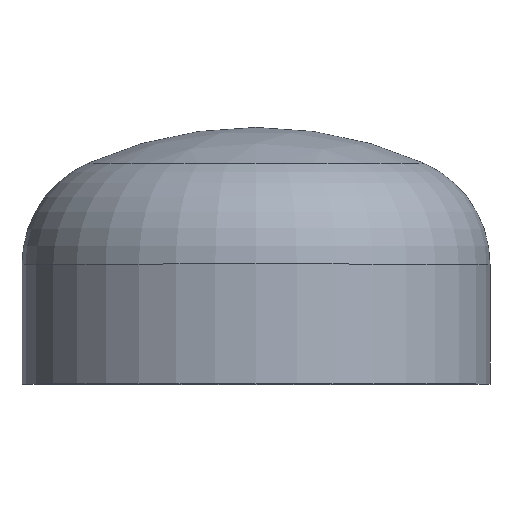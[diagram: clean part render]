
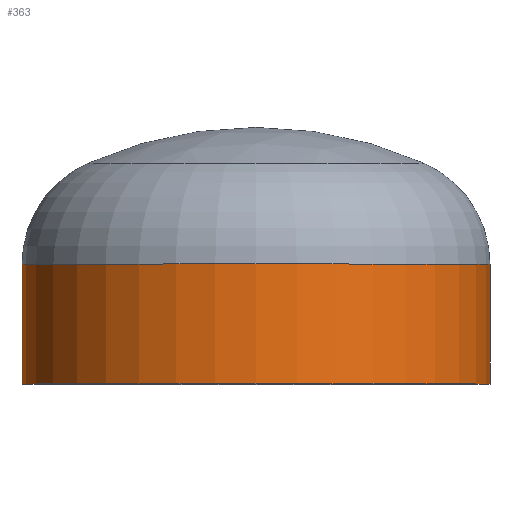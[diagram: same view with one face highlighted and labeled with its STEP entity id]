
A CAD part, top view. The second image highlights one B-rep face of the part: STEP entity #363.
In plain terms, the highlighted cylindrical face has radius 254 mm (diameter 508 mm), a partial arc.
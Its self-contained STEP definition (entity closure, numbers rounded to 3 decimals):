
#1 = AXIS2_PLACEMENT_3D ( 'NONE', #264, #79, #161 ) ;
#30 = DIRECTION ( 'NONE',  ( 1., 0., 0. ) ) ;
#33 = AXIS2_PLACEMENT_3D ( 'NONE', #156, #36, #30 ) ;
#36 = DIRECTION ( 'NONE',  ( 0., -1., 0. ) ) ;
#38 = LINE ( 'NONE', #378, #234 ) ;
#46 = FACE_OUTER_BOUND ( 'NONE', #302, .T. ) ;
#63 = VERTEX_POINT ( 'NONE', #257 ) ;
#65 = VERTEX_POINT ( 'NONE', #244 ) ;
#67 = EDGE_CURVE ( 'NONE', #65, #63, #38, .T. ) ;
#68 = EDGE_CURVE ( 'NONE', #113, #99, #248, .T. ) ;
#79 = DIRECTION ( 'NONE',  ( 0., -1., 0. ) ) ;
#82 = CARTESIAN_POINT ( 'NONE',  ( 0., 130., 0. ) ) ;
#98 = CIRCLE ( 'NONE', #33, 254. ) ;
#99 = VERTEX_POINT ( 'NONE', #183 ) ;
#109 = ORIENTED_EDGE ( 'NONE', *, *, #67, .F. ) ;
#113 = VERTEX_POINT ( 'NONE', #311 ) ;
#120 = DIRECTION ( 'NONE',  ( 1., 0., 0. ) ) ;
#156 = CARTESIAN_POINT ( 'NONE',  ( 0., 0., 0. ) ) ;
#161 = DIRECTION ( 'NONE',  ( 1., 0., 0. ) ) ;
#183 = CARTESIAN_POINT ( 'NONE',  ( -254., 0., 0. ) ) ;
#191 = ORIENTED_EDGE ( 'NONE', *, *, #394, .T. ) ;
#224 = ORIENTED_EDGE ( 'NONE', *, *, #290, .F. ) ;
#231 = ORIENTED_EDGE ( 'NONE', *, *, #68, .T. ) ;
#234 = VECTOR ( 'NONE', #241, 1000. ) ;
#238 = DIRECTION ( 'NONE',  ( 0., -1., 0. ) ) ;
#241 = DIRECTION ( 'NONE',  ( 0., -1., 0. ) ) ;
#242 = CARTESIAN_POINT ( 'NONE',  ( -254., 0., 0. ) ) ;
#244 = CARTESIAN_POINT ( 'NONE',  ( 254., 130., 0. ) ) ;
#248 = LINE ( 'NONE', #242, #368 ) ;
#257 = CARTESIAN_POINT ( 'NONE',  ( 254., 0., 0. ) ) ;
#264 = CARTESIAN_POINT ( 'NONE',  ( 0., 0., 0. ) ) ;
#287 = DIRECTION ( 'NONE',  ( 0., -1., 0. ) ) ;
#290 = EDGE_CURVE ( 'NONE', #63, #99, #98, .T. ) ;
#302 = EDGE_LOOP ( 'NONE', ( #191, #231, #224, #109 ) ) ;
#311 = CARTESIAN_POINT ( 'NONE',  ( -254., 130., 0. ) ) ;
#363 = ADVANCED_FACE ( 'NONE', ( #46 ), #364, .T. ) ;
#364 = CYLINDRICAL_SURFACE ( 'NONE', #1, 254. ) ;
#368 = VECTOR ( 'NONE', #238, 1000. ) ;
#378 = CARTESIAN_POINT ( 'NONE',  ( 254., 0., 0. ) ) ;
#383 = AXIS2_PLACEMENT_3D ( 'NONE', #82, #287, #120 ) ;
#394 = EDGE_CURVE ( 'NONE', #65, #113, #409, .T. ) ;
#409 = CIRCLE ( 'NONE', #383, 254. ) ;
